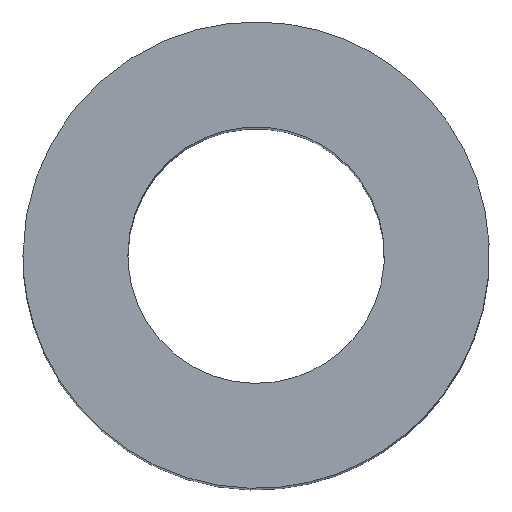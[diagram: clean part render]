
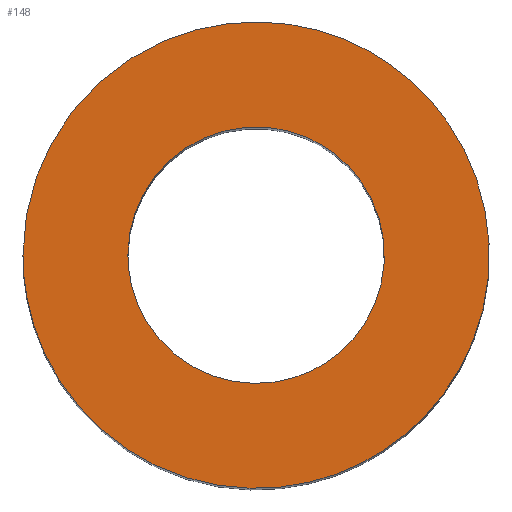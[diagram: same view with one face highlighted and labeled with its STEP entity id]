
A CAD part, top view. The second image highlights one B-rep face of the part: STEP entity #148.
In plain terms, the highlighted free-form (B-spline) face has degree [1, 1] with [2, 2] control points.
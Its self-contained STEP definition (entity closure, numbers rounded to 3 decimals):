
#115 = EDGE_CURVE('',#116,#116,#118,.T.);
#116 = VERTEX_POINT('',#117);
#117 = CARTESIAN_POINT('',(-3.,0.,13.));
#118 = ( BOUNDED_CURVE() B_SPLINE_CURVE(2,(#119,#120,#121,#122,#123,#124
,#125),.UNSPECIFIED.,.T.,.F.) B_SPLINE_CURVE_WITH_KNOTS((1,2,2,2,2,1),(
    -2.094,0.,2.094,4.189,6.283,
8.378),.UNSPECIFIED.) CURVE() GEOMETRIC_REPRESENTATION_ITEM() 
RATIONAL_B_SPLINE_CURVE((1.,0.5,1.,0.5,1.,0.5,1.)) REPRESENTATION_ITEM(
  '') );
#119 = CARTESIAN_POINT('',(-3.,0.,13.));
#120 = CARTESIAN_POINT('',(-3.,5.196,13.));
#121 = CARTESIAN_POINT('',(1.5,2.598,13.));
#122 = CARTESIAN_POINT('',(6.,0.,13.));
#123 = CARTESIAN_POINT('',(1.5,-2.598,13.));
#124 = CARTESIAN_POINT('',(-3.,-5.196,13.));
#125 = CARTESIAN_POINT('',(-3.,0.,13.));
#148 = ADVANCED_FACE('',(#149,#163),#166,.T.);
#149 = FACE_BOUND('',#150,.T.);
#150 = EDGE_LOOP('',(#151));
#151 = ORIENTED_EDGE('',*,*,#152,.T.);
#152 = EDGE_CURVE('',#153,#153,#155,.T.);
#153 = VERTEX_POINT('',#154);
#154 = CARTESIAN_POINT('',(-1.65,0.,13.));
#155 = ( BOUNDED_CURVE() B_SPLINE_CURVE(2,(#156,#157,#158,#159,#160,#161
,#162),.UNSPECIFIED.,.T.,.F.) B_SPLINE_CURVE_WITH_KNOTS((1,2,2,2,2,1),(
    -2.094,0.,2.094,4.189,6.283,
8.378),.UNSPECIFIED.) CURVE() GEOMETRIC_REPRESENTATION_ITEM() 
RATIONAL_B_SPLINE_CURVE((1.,0.5,1.,0.5,1.,0.5,1.)) REPRESENTATION_ITEM(
  '') );
#156 = CARTESIAN_POINT('',(-1.65,0.,13.));
#157 = CARTESIAN_POINT('',(-1.65,2.858,13.));
#158 = CARTESIAN_POINT('',(0.825,1.429,13.));
#159 = CARTESIAN_POINT('',(3.3,0.,13.));
#160 = CARTESIAN_POINT('',(0.825,-1.429,13.));
#161 = CARTESIAN_POINT('',(-1.65,-2.858,13.));
#162 = CARTESIAN_POINT('',(-1.65,0.,13.));
#163 = FACE_BOUND('',#164,.T.);
#164 = EDGE_LOOP('',(#165));
#165 = ORIENTED_EDGE('',*,*,#115,.F.);
#166 = B_SPLINE_SURFACE_WITH_KNOTS('',1,1,(
    (#167,#168)
    ,(#169,#170
  )),.UNSPECIFIED.,.F.,.F.,.F.,(2,2),(2,2),(0.,6.),(-3.,3.),
  .PIECEWISE_BEZIER_KNOTS.);
#167 = CARTESIAN_POINT('',(-3.,-3.,13.));
#168 = CARTESIAN_POINT('',(-3.,3.,13.));
#169 = CARTESIAN_POINT('',(3.,-3.,13.));
#170 = CARTESIAN_POINT('',(3.,3.,13.));
